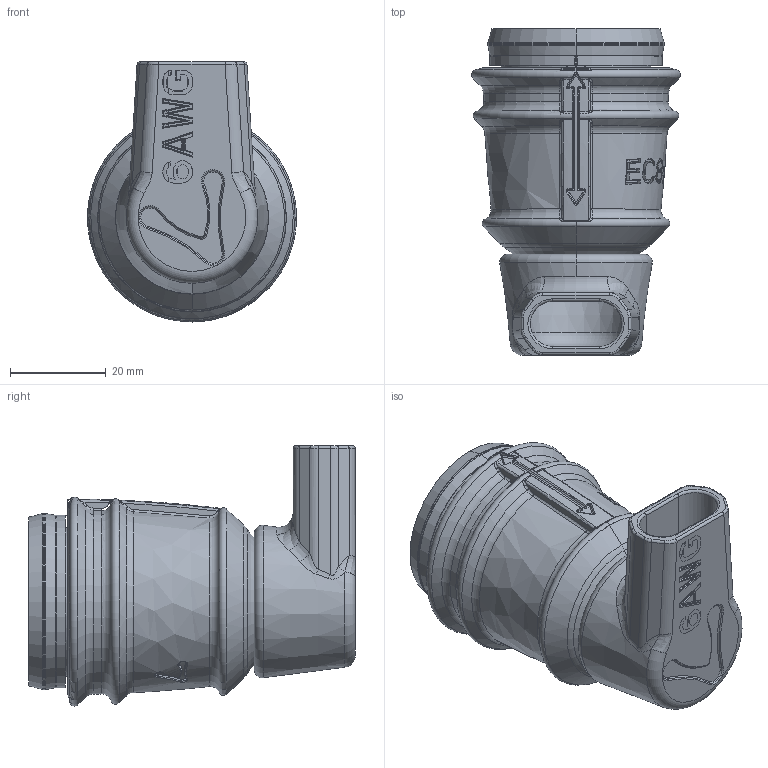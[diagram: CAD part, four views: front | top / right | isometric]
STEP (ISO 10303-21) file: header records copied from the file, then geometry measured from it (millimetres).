
FILE_DESCRIPTION((''),'2;1');
FILE_NAME('LCN-EC8X2-INLF_ASM','2025-06-27T12:45:48',('Neil'),(''),'CREO PARAMETRIC BY PTC INC, 2023134','CREO PARAMETRIC BY PTC INC, 2023134','');
FILE_SCHEMA(('AUTOMOTIVE_DESIGN { 1 0 10303 214 1 1 1 1 }'));
Length unit declared in the file: millimetre
Products named in the file (1): LCN-EC8X2-INLF_ASM
Bounding box: 43.65 x 68.19 x 54.33 mm (x, y, z)
Surface area: 19466.8 mm2 (no closed solid volume)
Topology: 0 solids, 37 shells, 336 faces, 1412 edges, 1092 vertices
Faces by surface type: bspline 113, cylinder 88, torus 62, cone 40, plane 33
Entity records: 27428 total; most frequent: CARTESIAN_POINT 15431, ORIENTED_EDGE 1956, DIRECTION 1527, EDGE_CURVE 1402, VERTEX_POINT 1092, B_SPLINE_CURVE_WITH_KNOTS 697, AXIS2_PLACEMENT_3D 598, CIRCLE 374
